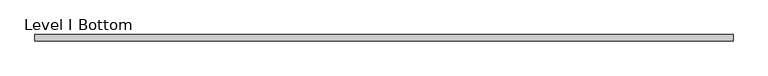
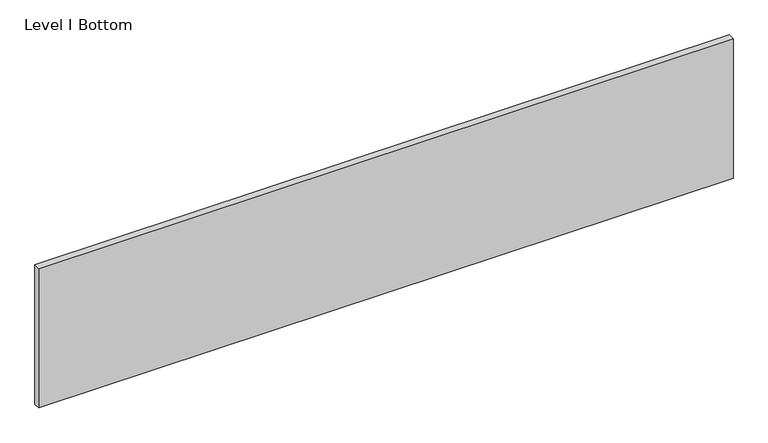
"""IFC4 building model written with IfcOpenShell, lengths in millimetres: proxy geometry, Panel-Fascia-Teknion-Altos-Landscape : Level I Bottom."""

from ifc_helpers import new_model, si_unit, frame, origin, place, context, project, spatial, polyline, outline, extrude, source, transform, mapped, element, save


def level_i_bottom_7d6acad2(model_context):
    return source(origin(), model_context, "Body", "SweptSolid", [
        extrude(outline(polyline([(1012.8305563, 9.525), (1012.8305563, -9.525), (-1012.8305562, -9.525), (-1012.8305562, 9.525), (1012.8305563, 9.525)])), frame((0.0, 0.0, 3.175), z_axis=(0.0, 0.0, 1.0), x_axis=(1.0, 0.0, 0.0)), (0.0, 0.0, 1.0), 429.768),
    ])


if __name__ == "__main__":
    model = new_model("IFC4")
    model_context = context("Model", 3, world=origin())
    ifc_project = project(units=[si_unit("LENGTHUNIT", "METRE", prefix="MILLI")], contexts=[model_context])
    site = spatial("IfcSite", under=ifc_project)
    building = spatial("IfcBuilding", under=site)
    placement = place(None, origin())
    level_i_bottom_shape = level_i_bottom_7d6acad2(model_context)
    element("IfcBuildingElementProxy", 1, Name="Panel-Fascia-Teknion-Altos-Landscape : Level I Bottom", ObjectType="Panel-Fascia-Teknion-Altos-Landscape : Level I Bottom", at=placement, inside=building, context=model_context, shape_type="MappedRepresentation", body=[
        mapped(level_i_bottom_shape, transform((0.0, 0.0, 0.0), x_axis=(1.0, 0.0, 0.0), y_axis=(0.0, 1.0, 0.0), z_axis=(0.0, 0.0, 1.0))),
    ])
    save(model, "model.ifc")
